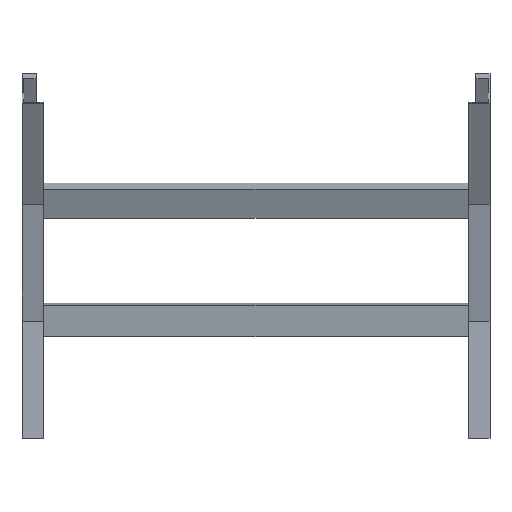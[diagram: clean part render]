
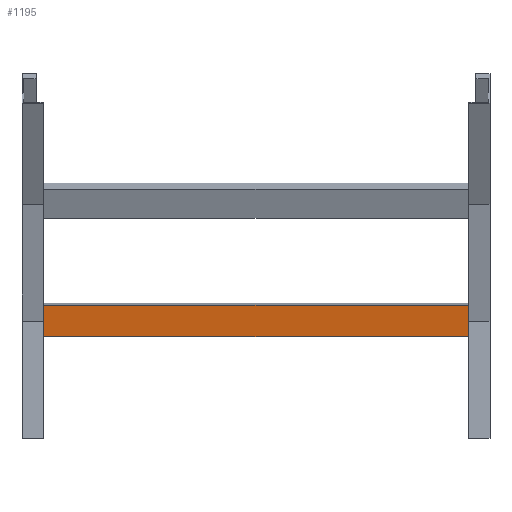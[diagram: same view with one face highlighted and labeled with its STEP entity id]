
A CAD part, front view. The second image highlights one B-rep face of the part: STEP entity #1195.
In plain terms, the highlighted planar face has unit normal (0, -0.991, -0.131) as drawn and (0, -1, 0) by its records, which use the part's own axes.
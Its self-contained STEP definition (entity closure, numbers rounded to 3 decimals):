
#62 = VECTOR ( 'NONE', #1271, 1000. ) ;
#64 = CARTESIAN_POINT ( 'NONE',  ( 298., 0., 20.25 ) ) ;
#122 = EDGE_CURVE ( 'NONE', #967, #244, #917, .T. ) ;
#133 = CARTESIAN_POINT ( 'NONE',  ( 298., 0., -20.25 ) ) ;
#242 = CARTESIAN_POINT ( 'NONE',  ( -298., 0., 20.25 ) ) ;
#244 = VERTEX_POINT ( 'NONE', #532 ) ;
#353 = DIRECTION ( 'NONE',  ( 0., 0., 1. ) ) ;
#455 = DIRECTION ( 'NONE',  ( -1., 0., 0. ) ) ;
#469 = PLANE ( 'NONE',  #963 ) ;
#481 = DIRECTION ( 'NONE',  ( 0., 1., 0. ) ) ;
#529 = LINE ( 'NONE', #64, #647 ) ;
#531 = ORIENTED_EDGE ( 'NONE', *, *, #750, .F. ) ;
#532 = CARTESIAN_POINT ( 'NONE',  ( -298., 0., -20.25 ) ) ;
#567 = EDGE_CURVE ( 'NONE', #1202, #244, #829, .T. ) ;
#601 = DIRECTION ( 'NONE',  ( -1., 0., 0. ) ) ;
#647 = VECTOR ( 'NONE', #1322, 1000. ) ;
#694 = CARTESIAN_POINT ( 'NONE',  ( 298., 0., 20.25 ) ) ;
#750 = EDGE_CURVE ( 'NONE', #1473, #1202, #529, .T. ) ;
#819 = ORIENTED_EDGE ( 'NONE', *, *, #1190, .T. ) ;
#829 = LINE ( 'NONE', #133, #877 ) ;
#848 = ORIENTED_EDGE ( 'NONE', *, *, #122, .T. ) ;
#877 = VECTOR ( 'NONE', #601, 1000. ) ;
#917 = LINE ( 'NONE', #1366, #62 ) ;
#923 = FACE_OUTER_BOUND ( 'NONE', #951, .T. ) ;
#951 = EDGE_LOOP ( 'NONE', ( #848, #1364, #531, #819 ) ) ;
#963 = AXIS2_PLACEMENT_3D ( 'NONE', #1042, #481, #353 ) ;
#967 = VERTEX_POINT ( 'NONE', #242 ) ;
#1042 = CARTESIAN_POINT ( 'NONE',  ( 298., 0., 20.25 ) ) ;
#1061 = LINE ( 'NONE', #694, #1334 ) ;
#1160 = CARTESIAN_POINT ( 'NONE',  ( 298., 0., -20.25 ) ) ;
#1190 = EDGE_CURVE ( 'NONE', #1473, #967, #1061, .T. ) ;
#1195 = ADVANCED_FACE ( 'NONE', ( #923 ), #469, .F. ) ;
#1202 = VERTEX_POINT ( 'NONE', #1160 ) ;
#1271 = DIRECTION ( 'NONE',  ( 0., 0., -1. ) ) ;
#1322 = DIRECTION ( 'NONE',  ( 0., 0., -1. ) ) ;
#1334 = VECTOR ( 'NONE', #455, 1000. ) ;
#1364 = ORIENTED_EDGE ( 'NONE', *, *, #567, .F. ) ;
#1366 = CARTESIAN_POINT ( 'NONE',  ( -298., 0., 20.25 ) ) ;
#1451 = CARTESIAN_POINT ( 'NONE',  ( 298., 0., 20.25 ) ) ;
#1473 = VERTEX_POINT ( 'NONE', #1451 ) ;
